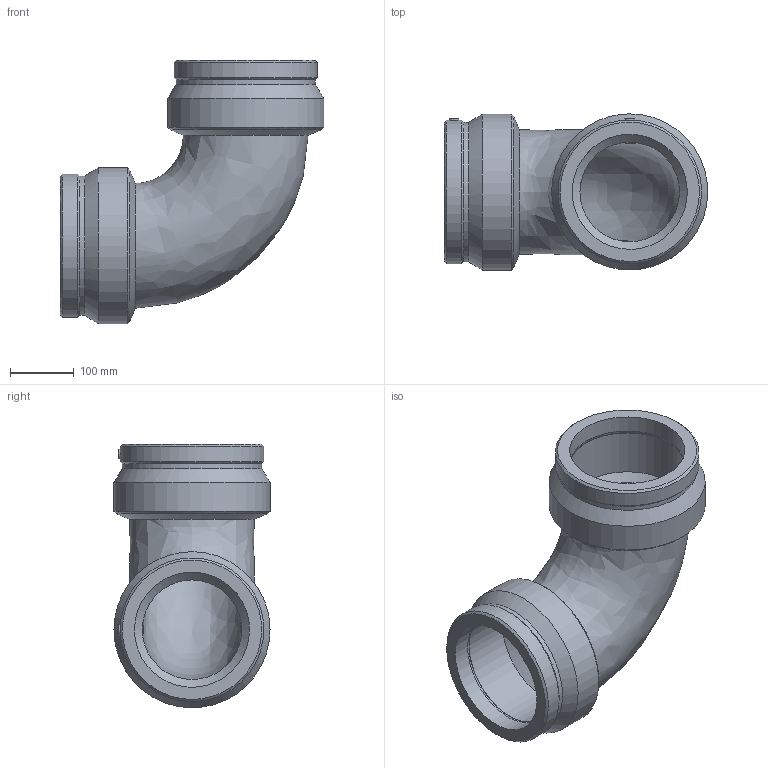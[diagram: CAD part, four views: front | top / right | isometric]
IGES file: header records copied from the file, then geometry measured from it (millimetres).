
Global section: file name: 490504180; native system: Autodesk Inventor 2026; preprocessor: unknown; author: KIM; date: 20260322.131252; units: millimetre
Bounding box: 411.96 x 244 x 411.96 mm (x, y, z)
Volume: 7104465.9 mm3; surface area: 664438.3 mm2
Topology: 1 solids, 1 shells, 42 faces, 108 edges, 76 vertices
Faces by surface type: bspline 42
